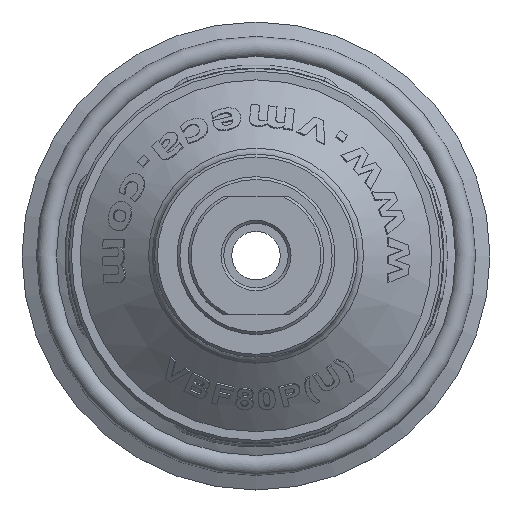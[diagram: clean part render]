
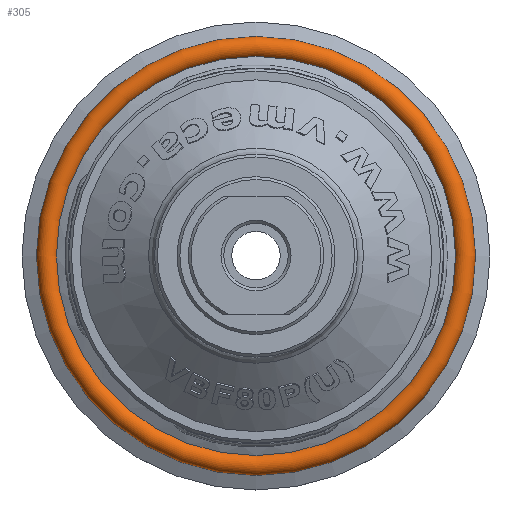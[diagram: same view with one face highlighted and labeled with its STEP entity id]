
A CAD part, top view. The second image highlights one B-rep face of the part: STEP entity #305.
In plain terms, the highlighted toroidal (fillet/blend) face has major radius 37.069 mm and minor radius 1.871 mm.
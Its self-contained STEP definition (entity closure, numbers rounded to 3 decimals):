
#305 = ADVANCED_FACE( '', ( #859, #860 ), #861, .T. );
#859 = FACE_OUTER_BOUND( '', #2100, .T. );
#860 = FACE_OUTER_BOUND( '', #2101, .T. );
#861 = TOROIDAL_SURFACE( '', #2102, 37.069, 1.871 );
#2100 = EDGE_LOOP( '', ( #10552 ) );
#2101 = EDGE_LOOP( '', ( #10553 ) );
#2102 = AXIS2_PLACEMENT_3D( '', #10554, #10555, #10556 );
#10552 = ORIENTED_EDGE( '', *, *, #12266, .F. );
#10553 = ORIENTED_EDGE( '', *, *, #12267, .T. );
#10554 = CARTESIAN_POINT( '', ( 0., 0., -20.793 ) );
#10555 = DIRECTION( '', ( 0., 0., 1. ) );
#10556 = DIRECTION( '', ( 1., 0., 0. ) );
#12266 = EDGE_CURVE( '', #13162, #13162, #13163, .T. );
#12267 = EDGE_CURVE( '', #13164, #13164, #13165, .T. );
#13162 = VERTEX_POINT( '', #14974 );
#13163 = CIRCLE( '', #14975, 35.402 );
#13164 = VERTEX_POINT( '', #14976 );
#13165 = CIRCLE( '', #14977, 38.736 );
#14974 = CARTESIAN_POINT( '', ( 35.402, 0., -19.943 ) );
#14975 = AXIS2_PLACEMENT_3D( '', #21256, #21257, #21258 );
#14976 = CARTESIAN_POINT( '', ( 38.736, 0., -21.642 ) );
#14977 = AXIS2_PLACEMENT_3D( '', #21259, #21260, #21261 );
#21256 = CARTESIAN_POINT( '', ( 0., 0., -19.943 ) );
#21257 = DIRECTION( '', ( 0., 0., 1. ) );
#21258 = DIRECTION( '', ( 1., 0., 0. ) );
#21259 = CARTESIAN_POINT( '', ( 0., 0., -21.642 ) );
#21260 = DIRECTION( '', ( 0., 0., 1. ) );
#21261 = DIRECTION( '', ( 1., 0., 0. ) );
